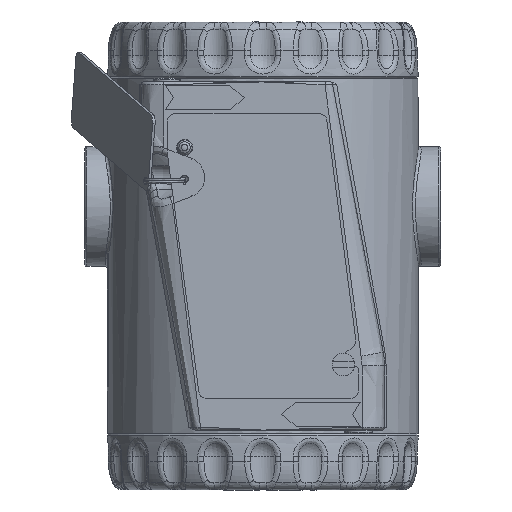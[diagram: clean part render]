
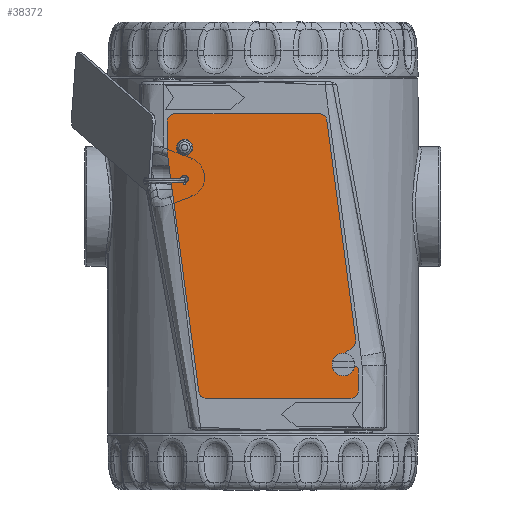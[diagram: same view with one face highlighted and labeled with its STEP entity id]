
A CAD part, left-side view. The second image highlights one B-rep face of the part: STEP entity #38372.
In plain terms, the highlighted planar face has unit normal (-1, 0, 0) as drawn and (0, 0, 1) by its records, which use the part's own axes.
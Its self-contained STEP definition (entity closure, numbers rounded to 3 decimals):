
#1166=PLANE('',#42614);
#1793=FACE_BOUND('',#10216,.T.);
#1794=FACE_BOUND('',#10217,.T.);
#3113=LINE('',#80571,#4930);
#3117=LINE('',#80583,#4934);
#3121=LINE('',#80595,#4938);
#3125=LINE('',#80607,#4942);
#3129=LINE('',#80619,#4946);
#3132=LINE('',#80625,#4949);
#3136=LINE('',#80637,#4953);
#3140=LINE('',#80648,#4957);
#4930=VECTOR('',#51376,10.);
#4934=VECTOR('',#51388,10.);
#4938=VECTOR('',#51400,10.);
#4942=VECTOR('',#51412,10.);
#4946=VECTOR('',#51424,10.);
#4949=VECTOR('',#51429,10.);
#4953=VECTOR('',#51441,10.);
#4957=VECTOR('',#51453,10.);
#7762=FACE_OUTER_BOUND('',#10215,.T.);
#10215=EDGE_LOOP('',(#32074,#32075,#32076,#32077,#32078,#32079,#32080,#32081,
#32082,#32083,#32084,#32085,#32086,#32087,#32088));
#10216=EDGE_LOOP('',(#32089));
#10217=EDGE_LOOP('',(#32090));
#12759=CIRCLE('',#42580,1.35);
#12761=CIRCLE('',#42583,1.);
#12762=CIRCLE('',#42585,2.);
#12764=CIRCLE('',#42589,2.);
#12766=CIRCLE('',#42593,1.);
#12768=CIRCLE('',#42597,2.);
#12770=CIRCLE('',#42601,2.);
#12772=CIRCLE('',#42606,2.);
#12774=CIRCLE('',#42610,2.);
#17292=VERTEX_POINT('',#80551);
#17294=VERTEX_POINT('',#80557);
#17295=VERTEX_POINT('',#80561);
#17296=VERTEX_POINT('',#80562);
#17299=VERTEX_POINT('',#80570);
#17301=VERTEX_POINT('',#80576);
#17303=VERTEX_POINT('',#80582);
#17305=VERTEX_POINT('',#80588);
#17307=VERTEX_POINT('',#80594);
#17309=VERTEX_POINT('',#80600);
#17311=VERTEX_POINT('',#80606);
#17313=VERTEX_POINT('',#80612);
#17315=VERTEX_POINT('',#80618);
#17317=VERTEX_POINT('',#80624);
#17319=VERTEX_POINT('',#80630);
#17321=VERTEX_POINT('',#80636);
#17323=VERTEX_POINT('',#80642);
#22376=EDGE_CURVE('',#17292,#17292,#12759,.T.);
#22379=EDGE_CURVE('',#17294,#17294,#12761,.T.);
#22380=EDGE_CURVE('',#17295,#17296,#12762,.T.);
#22384=EDGE_CURVE('',#17296,#17299,#3113,.T.);
#22387=EDGE_CURVE('',#17299,#17301,#12764,.T.);
#22390=EDGE_CURVE('',#17301,#17303,#3117,.T.);
#22393=EDGE_CURVE('',#17303,#17305,#12766,.T.);
#22396=EDGE_CURVE('',#17305,#17307,#3121,.T.);
#22399=EDGE_CURVE('',#17307,#17309,#12768,.T.);
#22402=EDGE_CURVE('',#17309,#17311,#3125,.T.);
#22405=EDGE_CURVE('',#17311,#17313,#12770,.T.);
#22408=EDGE_CURVE('',#17313,#17315,#3129,.T.);
#22411=EDGE_CURVE('',#17315,#17317,#3132,.T.);
#22414=EDGE_CURVE('',#17317,#17319,#12772,.T.);
#22417=EDGE_CURVE('',#17319,#17321,#3136,.T.);
#22420=EDGE_CURVE('',#17321,#17323,#12774,.T.);
#22423=EDGE_CURVE('',#17323,#17295,#3140,.T.);
#32074=ORIENTED_EDGE('',*,*,#22380,.F.);
#32075=ORIENTED_EDGE('',*,*,#22423,.F.);
#32076=ORIENTED_EDGE('',*,*,#22420,.F.);
#32077=ORIENTED_EDGE('',*,*,#22417,.F.);
#32078=ORIENTED_EDGE('',*,*,#22414,.F.);
#32079=ORIENTED_EDGE('',*,*,#22411,.F.);
#32080=ORIENTED_EDGE('',*,*,#22408,.F.);
#32081=ORIENTED_EDGE('',*,*,#22405,.F.);
#32082=ORIENTED_EDGE('',*,*,#22402,.F.);
#32083=ORIENTED_EDGE('',*,*,#22399,.F.);
#32084=ORIENTED_EDGE('',*,*,#22396,.F.);
#32085=ORIENTED_EDGE('',*,*,#22393,.F.);
#32086=ORIENTED_EDGE('',*,*,#22390,.F.);
#32087=ORIENTED_EDGE('',*,*,#22387,.F.);
#32088=ORIENTED_EDGE('',*,*,#22384,.F.);
#32089=ORIENTED_EDGE('',*,*,#22376,.T.);
#32090=ORIENTED_EDGE('',*,*,#22379,.T.);
#38372=ADVANCED_FACE('',(#7762,#1793,#1794),#1166,.T.);
#42580=AXIS2_PLACEMENT_3D('',#80553,#51357,#51358);
#42583=AXIS2_PLACEMENT_3D('',#80559,#51364,#51365);
#42585=AXIS2_PLACEMENT_3D('',#80563,#51368,#51369);
#42589=AXIS2_PLACEMENT_3D('',#80577,#51381,#51382);
#42593=AXIS2_PLACEMENT_3D('',#80589,#51393,#51394);
#42597=AXIS2_PLACEMENT_3D('',#80601,#51405,#51406);
#42601=AXIS2_PLACEMENT_3D('',#80613,#51417,#51418);
#42606=AXIS2_PLACEMENT_3D('',#80631,#51434,#51435);
#42610=AXIS2_PLACEMENT_3D('',#80643,#51446,#51447);
#42614=AXIS2_PLACEMENT_3D('',#80651,#51457,#51458);
#51357=DIRECTION('center_axis',(0.,0.,-1.));
#51358=DIRECTION('ref_axis',(-1.,0.,0.));
#51364=DIRECTION('center_axis',(0.,0.,-1.));
#51365=DIRECTION('ref_axis',(-1.,0.,0.));
#51368=DIRECTION('center_axis',(0.,0.,-1.));
#51369=DIRECTION('ref_axis',(0.766,0.643,0.));
#51376=DIRECTION('',(0.643,-0.766,0.));
#51381=DIRECTION('center_axis',(0.,0.,1.));
#51382=DIRECTION('ref_axis',(0.766,0.643,0.));
#51388=DIRECTION('',(-0.643,0.766,0.));
#51393=DIRECTION('center_axis',(0.,0.,-1.));
#51394=DIRECTION('ref_axis',(0.,1.,0.));
#51400=DIRECTION('',(1.,0.,0.));
#51405=DIRECTION('center_axis',(0.,0.,-1.));
#51406=DIRECTION('ref_axis',(1.,0.,0.));
#51412=DIRECTION('',(0.,-1.,0.));
#51417=DIRECTION('center_axis',(0.,0.,-1.));
#51418=DIRECTION('ref_axis',(0.131,-0.991,0.));
#51424=DIRECTION('',(-0.991,-0.131,0.));
#51429=DIRECTION('',(-1.,0.,0.));
#51434=DIRECTION('center_axis',(0.,0.,-1.));
#51435=DIRECTION('ref_axis',(-1.,0.,0.));
#51441=DIRECTION('',(0.,1.,0.));
#51446=DIRECTION('center_axis',(0.,0.,-1.));
#51447=DIRECTION('ref_axis',(-0.131,0.991,0.));
#51453=DIRECTION('',(0.991,0.131,0.));
#51457=DIRECTION('center_axis',(0.,0.,1.));
#51458=DIRECTION('ref_axis',(1.,0.,0.));
#80551=CARTESIAN_POINT('',(10.35,4.599,0.7));
#80553=CARTESIAN_POINT('Origin',(9.,4.599,0.7));
#80557=CARTESIAN_POINT('',(18.4,4.599,0.7));
#80559=CARTESIAN_POINT('Origin',(17.4,4.599,0.7));
#80561=CARTESIAN_POINT('',(60.389,50.327,0.7));
#80562=CARTESIAN_POINT('',(62.182,49.63,0.7));
#80563=CARTESIAN_POINT('Origin',(60.65,48.344,0.7));
#80570=CARTESIAN_POINT('',(65.468,45.714,0.7));
#80571=CARTESIAN_POINT('',(65.468,45.714,0.7));
#80576=CARTESIAN_POINT('',(68.532,48.286,0.7));
#80577=CARTESIAN_POINT('Origin',(67.,47.,0.7));
#80582=CARTESIAN_POINT('',(67.633,49.357,0.7));
#80583=CARTESIAN_POINT('',(67.633,49.357,0.7));
#80588=CARTESIAN_POINT('',(68.399,51.,0.7));
#80589=CARTESIAN_POINT('Origin',(68.399,50.,0.7));
#80594=CARTESIAN_POINT('',(74.,51.,0.7));
#80595=CARTESIAN_POINT('',(74.,51.,0.7));
#80600=CARTESIAN_POINT('',(76.,49.,0.7));
#80601=CARTESIAN_POINT('Origin',(74.,49.,0.7));
#80606=CARTESIAN_POINT('',(76.,10.377,0.7));
#80607=CARTESIAN_POINT('',(76.,10.377,0.7));
#80612=CARTESIAN_POINT('',(74.261,8.394,0.7));
#80613=CARTESIAN_POINT('Origin',(74.,10.377,0.7));
#80618=CARTESIAN_POINT('',(10.5,0.,0.7));
#80619=CARTESIAN_POINT('',(10.5,0.,0.7));
#80624=CARTESIAN_POINT('',(2.,0.,0.7));
#80625=CARTESIAN_POINT('',(2.,0.,0.7));
#80630=CARTESIAN_POINT('',(0.,2.,0.7));
#80631=CARTESIAN_POINT('Origin',(2.,2.,0.7));
#80636=CARTESIAN_POINT('',(0.,40.623,0.7));
#80637=CARTESIAN_POINT('',(0.,40.623,0.7));
#80642=CARTESIAN_POINT('',(1.739,42.606,0.7));
#80643=CARTESIAN_POINT('Origin',(2.,40.623,0.7));
#80648=CARTESIAN_POINT('',(60.389,50.327,0.7));
#80651=CARTESIAN_POINT('Origin',(39.077,26.228,0.7));
